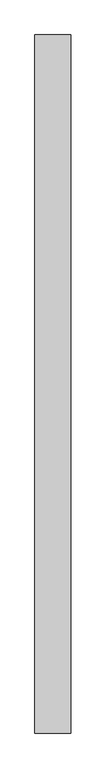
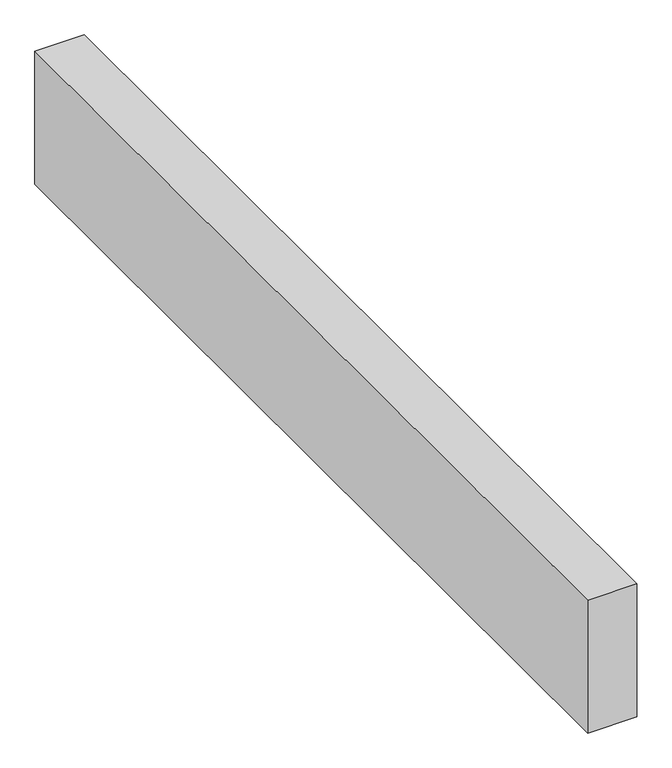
"""IFC4 building model written with IfcOpenShell, lengths in millimetres: proxy geometry."""

import ifcopenshell
import ifcopenshell.guid

model = None  # the IFC model being written
_history = None  # IfcOwnerHistory: only IFC2X3 demands one
_inside = {}  # id of a spatial element -> (the spatial element, [elements in it])
_under = {}  # id of a project, library or spatial element -> (it, [spatial elements below it])
_declared = {}  # id of a project -> (the project, [libraries it declares])
_typed = {}  # id of a type object -> (the type object, [elements of that type])
_made_of = {}  # id of a material, layer set ... -> (it, [elements and type objects made of it])


def new_model(schema):
    """Start an empty IFC model of exactly this schema.

    Asked for "IFC4X3", IfcOpenShell would pick the latest addendum, in which some entities
    have other attributes; the version numbers below select the first issue.
    IFC2X3 requires an IfcOwnerHistory on every rooted entity: one is made here for all.
    """
    global model, _history
    if schema == "IFC4X3":
        model = ifcopenshell.file(schema_version=(4, 3, 0, 0))
    else:
        model = ifcopenshell.file(schema=schema)
    _inside.clear()
    _under.clear()
    _declared.clear()
    _typed.clear()
    _made_of.clear()
    _history = None
    if model.schema == "IFC2X3":
        org = make("IfcOrganization", Name="unknown")
        user = make(
            "IfcPersonAndOrganization",
            ThePerson=make("IfcPerson", FamilyName="unknown"),
            TheOrganization=org,
        )
        app = make(
            "IfcApplication",
            ApplicationDeveloper=org,
            Version="unknown",
            ApplicationFullName="unknown",
            ApplicationIdentifier="unknown",
        )
        _history = make(
            "IfcOwnerHistory",
            OwningUser=user,
            OwningApplication=app,
            ChangeAction="ADDED",
            CreationDate=0,
        )
    return model


def make(cls, **values):
    """One entity of the class cls with the attributes given. An attribute that is None is left unset."""
    return model.create_entity(
        cls, **{name: value for name, value in values.items() if value is not None}
    )


def rooted(cls, **values):
    """An entity with a GlobalId (a new one), such as an element, a storey or a relation."""
    return make(cls, GlobalId=ifcopenshell.guid.new(), OwnerHistory=_history, **values)


def si_unit(unit_type, name, prefix=None):
    """IfcSIUnit, for example si_unit("LENGTHUNIT", "METRE", prefix="MILLI")."""
    return make("IfcSIUnit", UnitType=unit_type, Prefix=prefix, Name=name)


def assignment(units):
    """IfcUnitAssignment: the units of a project."""
    return None if units is None else make("IfcUnitAssignment", Units=units)


def point(xyz):
    """IfcCartesianPoint."""
    return None if xyz is None else make("IfcCartesianPoint", Coordinates=xyz)


def direction(xyz):
    """IfcDirection."""
    return None if xyz is None else make("IfcDirection", DirectionRatios=xyz)


def frame(location, z_axis=None, x_axis=None):
    """IfcAxis2Placement3D, a coordinate frame: its origin and axes. An axis left out is left unset."""
    return make(
        "IfcAxis2Placement3D",
        Location=point(location),
        Axis=direction(z_axis),
        RefDirection=direction(x_axis),
    )


def origin():
    """The frame at (0, 0, 0) with its axes left unset."""
    return frame((0.0, 0.0, 0.0))


def place(relative_to, where):
    """IfcLocalPlacement: puts the frame where relative to a parent placement (None: the world)."""
    return make(
        "IfcLocalPlacement", PlacementRelTo=relative_to, RelativePlacement=where
    )


def context(
    kind, dimensions, precision=None, world=None, true_north=None, identifier=None
):
    """IfcGeometricRepresentationContext, for example the 3D "Model" context."""
    return make(
        "IfcGeometricRepresentationContext",
        ContextIdentifier=identifier,
        ContextType=kind,
        CoordinateSpaceDimension=dimensions,
        Precision=precision,
        WorldCoordinateSystem=world,
        TrueNorth=true_north,
    )


def project(units=None, contexts=None):
    """IfcProject with its units and contexts."""
    return rooted(
        "IfcProject",
        Name="project",
        RepresentationContexts=contexts,
        UnitsInContext=assignment(units),
    )


def spatial(cls, under=None, at=None, **own):
    """A site, building, storey or space (cls), placed at a placement, below another one or the project."""
    s = rooted(cls, ObjectPlacement=at, **own)
    if under is not None:
        _under.setdefault(under.id(), (under, []))[1].append(s)
    return s


def polyline(points):
    """IfcPolyline through the points."""
    return make("IfcPolyline", Points=[point(p) for p in points])


def outline(outer, holes=None, kind="AREA"):
    """IfcArbitraryClosedProfileDef: a profile drawn as a closed curve; with holes, ...WithVoids."""
    if holes is None:
        return make("IfcArbitraryClosedProfileDef", ProfileType=kind, OuterCurve=outer)
    return make(
        "IfcArbitraryProfileDefWithVoids",
        ProfileType=kind,
        OuterCurve=outer,
        InnerCurves=holes,
    )


def extrude(swept, where, along, depth):
    """IfcExtrudedAreaSolid: the profile swept, set in the frame where, extruded along a direction by depth."""
    return make(
        "IfcExtrudedAreaSolid",
        SweptArea=swept,
        Position=where,
        ExtrudedDirection=direction(along),
        Depth=depth,
    )


def shape(context_of_items, identifier, shape_type, items):
    """IfcShapeRepresentation: the items that make up one representation, for example the "Body"."""
    return make(
        "IfcShapeRepresentation",
        ContextOfItems=context_of_items,
        RepresentationIdentifier=identifier,
        RepresentationType=shape_type,
        Items=items,
    )


def source(mapping_origin, context_of_items, identifier, shape_type, items):
    """IfcRepresentationMap: a shape defined once, which mapped items show again and again."""
    return make(
        "IfcRepresentationMap",
        MappingOrigin=mapping_origin,
        MappedRepresentation=shape(context_of_items, identifier, shape_type, items),
    )


def transform(
    local_origin,
    x_axis=None,
    y_axis=None,
    z_axis=None,
    scale=None,
    scale2=None,
    scale3=None,
    uniform=True,
):
    """IfcCartesianTransformationOperator3D, or its non-uniform kind. x_axis, y_axis, z_axis: its Axis1, 2, 3."""
    if uniform:
        return make(
            "IfcCartesianTransformationOperator3D",
            Axis1=direction(x_axis),
            Axis2=direction(y_axis),
            LocalOrigin=point(local_origin),
            Scale=scale,
            Axis3=direction(z_axis),
        )
    return make(
        "IfcCartesianTransformationOperator3DnonUniform",
        Axis1=direction(x_axis),
        Axis2=direction(y_axis),
        LocalOrigin=point(local_origin),
        Scale=scale,
        Axis3=direction(z_axis),
        Scale2=scale2,
        Scale3=scale3,
    )


def mapped(mapping_source, mapping_target):
    """IfcMappedItem: shows the shape of a source again, moved by a transform."""
    return make(
        "IfcMappedItem", MappingSource=mapping_source, MappingTarget=mapping_target
    )


def made_of(thing, what):
    """Note that an element or type object is made of a material, layer set ...; save() writes the relation."""
    if what is not None:
        _made_of.setdefault(what.id(), (what, []))[1].append(thing)
    return thing


def element(
    cls,
    number,
    at=None,
    inside=None,
    cuts=None,
    type_object=None,
    material=None,
    context=None,
    identifier="Body",
    shape_type=None,
    held_by="IfcProductDefinitionShape",
    body=None,
    shapes=None,
    **own,
):
    """One element of the class cls, such as IfcWall. Its Tag is "e" and its number.

    at: its placement. inside: the storey or other place that contains it. cuts: it is an
    opening in that element (IfcRelVoidsElement). A single representation is given by context,
    identifier, shape_type and body (its items); several are given by shapes. held_by: the class
    of the entity that holds the representations. save() writes the other relations.
    """
    e = rooted(cls, Tag="e%d" % number, ObjectPlacement=at, **own)
    if body is not None:
        shapes = [shape(context, identifier, shape_type, body)]
    if shapes is not None:
        e.Representation = make(held_by, Representations=shapes)
    if inside is not None:
        _inside.setdefault(inside.id(), (inside, []))[1].append(e)
    if cuts is not None:
        rooted(
            "IfcRelVoidsElement", RelatingBuildingElement=cuts, RelatedOpeningElement=e
        )
    if type_object is not None:
        _typed.setdefault(type_object.id(), (type_object, []))[1].append(e)
    return made_of(e, material)


def aggregate(whole, parts):
    """IfcRelAggregates: a whole, such as a stair, and the parts it consists of."""
    return rooted("IfcRelAggregates", RelatingObject=whole, RelatedObjects=parts)


def save(model, path):
    """Write the relations noted so far, then the file.

    IfcRelAggregates (storeys below a building ...), IfcRelContainedInSpatialStructure (elements
    in a storey), IfcRelDefinesByType, IfcRelAssociatesMaterial and IfcRelDeclares: one each for
    every whole, place, type object, material and project.
    """
    for whole, parts in _under.values():
        aggregate(whole, parts)
    for where, things in _inside.values():
        rooted(
            "IfcRelContainedInSpatialStructure",
            RelatedElements=things,
            RelatingStructure=where,
        )
    for kind, things in _typed.values():
        rooted("IfcRelDefinesByType", RelatedObjects=things, RelatingType=kind)
    for what, things in _made_of.values():
        rooted("IfcRelAssociatesMaterial", RelatedObjects=things, RelatingMaterial=what)
    for by, libraries in _declared.values():
        rooted("IfcRelDeclares", RelatingContext=by, RelatedDefinitions=libraries)
    model.write(path)


def structural_framing_02aedc1d(model_context):
    return source(origin(), model_context, "Body", "SweptSolid", [
        extrude(outline(polyline([(70.0, -1362.5), (-70.0, -1362.5), (-70.0, 1362.5), (70.0, 1362.5), (70.0, -1362.5)])), frame((0.0, 0.0, -400.0), z_axis=(0.0, 0.0, 1.0), x_axis=(1.0, 0.0, 0.0)), (0.0, 0.0, 1.0), 400.0),
    ])


if __name__ == "__main__":
    model = new_model("IFC4")
    model_context = context("Model", 3, world=origin())
    ifc_project = project(units=[si_unit("LENGTHUNIT", "METRE", prefix="MILLI")], contexts=[model_context])
    site = spatial("IfcSite", under=ifc_project)
    building = spatial("IfcBuilding", under=site)
    placement = place(None, origin())
    structural_framing_shape = structural_framing_02aedc1d(model_context)
    element("IfcBuildingElementProxy", 1, Name="Structural Framing", at=placement, inside=building, context=model_context, shape_type="MappedRepresentation", body=[
        mapped(structural_framing_shape, transform((0.0, 0.0, 0.0), x_axis=(1.0, 0.0, 0.0), y_axis=(0.0, 1.0, 0.0), z_axis=(0.0, 0.0, 1.0))),
    ])
    save(model, "model.ifc")
